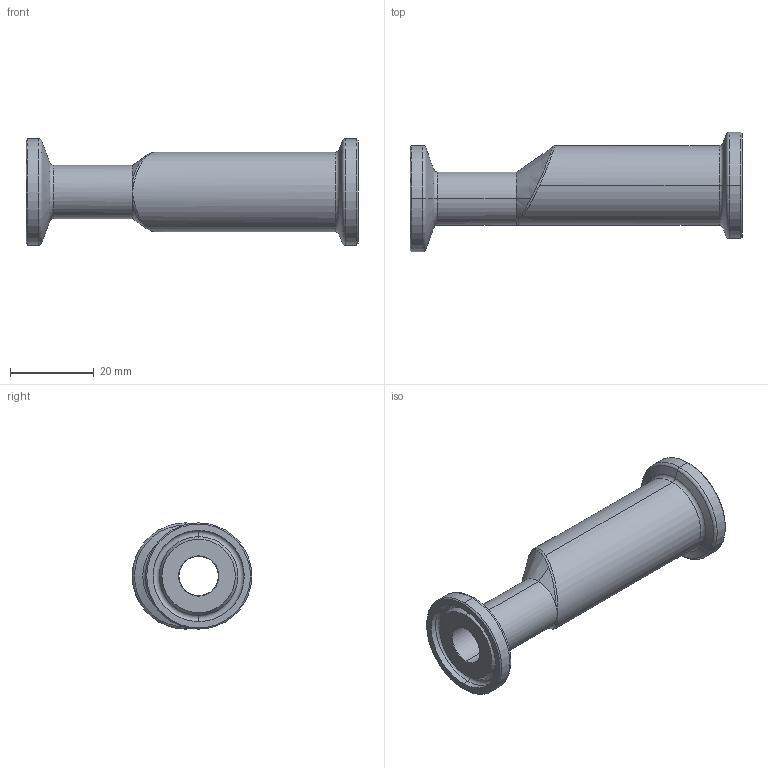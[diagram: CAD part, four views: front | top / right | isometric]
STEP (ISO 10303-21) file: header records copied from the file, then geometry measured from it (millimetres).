
FILE_DESCRIPTION (( 'STEP AP214' ), '1' );
FILE_NAME ('TEG32SCC6L.75x.5-...STEP', '2016-06-01T13:04:35', ( 'eran' ), ( '' ), 'SwSTEP 2.0', 'SolidWorks 2016', '' );
FILE_SCHEMA (( 'AUTOMOTIVE_DESIGN' ));
Length unit declared in the file: millimetre
Products named in the file (1): TEG32SCC6L.75x.5-..
Bounding box: 79.38 x 28.57 x 25.4 mm (x, y, z)
Volume: 12864.4 mm3; surface area: 8541.7 mm2
Topology: 1 solids, 1 shells, 60 faces, 128 edges, 70 vertices
Faces by surface type: cone 20, torus 17, cylinder 16, plane 4, bspline 3
Entity records: 2146 total; most frequent: CARTESIAN_POINT 816, DIRECTION 304, ORIENTED_EDGE 252, AXIS2_PLACEMENT_3D 135, EDGE_CURVE 126, CIRCLE 77, VERTEX_POINT 70, EDGE_LOOP 64
